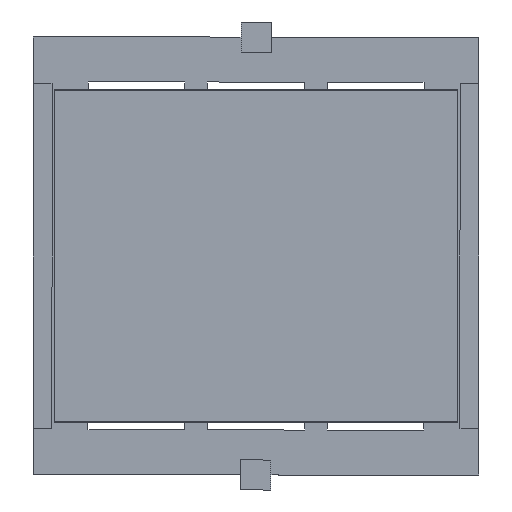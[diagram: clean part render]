
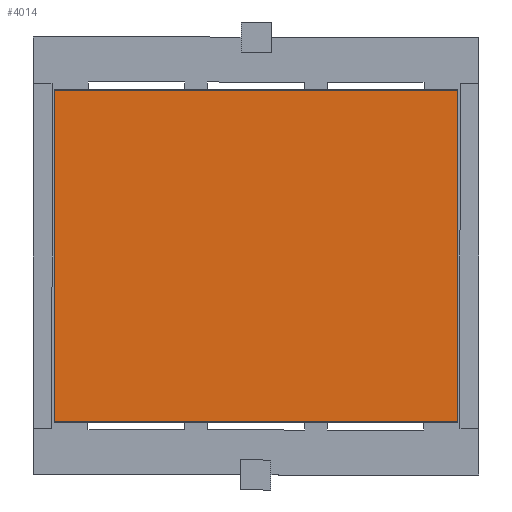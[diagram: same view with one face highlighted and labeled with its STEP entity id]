
A CAD part, front view. The second image highlights one B-rep face of the part: STEP entity #4014.
In plain terms, the highlighted planar face has unit normal (0, -1, 0).
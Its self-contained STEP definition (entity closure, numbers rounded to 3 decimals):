
#145 = CARTESIAN_POINT ( 'NONE',  ( -23.628, -8.053, 21.798 ) ) ;
#459 = CARTESIAN_POINT ( 'NONE',  ( -23.628, -8.053, 21.798 ) ) ;
#653 = EDGE_CURVE ( 'NONE', #707, #3881, #1815, .T. ) ;
#707 = VERTEX_POINT ( 'NONE', #145 ) ;
#982 = VERTEX_POINT ( 'NONE', #4372 ) ;
#1199 = VECTOR ( 'NONE', #2159, 1000. ) ;
#1309 = VECTOR ( 'NONE', #5328, 1000. ) ;
#1610 = EDGE_LOOP ( 'NONE', ( #5399, #2987, #2485, #4608 ) ) ;
#1736 = DIRECTION ( 'NONE',  ( -1., 0., 0. ) ) ;
#1815 = LINE ( 'NONE', #459, #1309 ) ;
#2159 = DIRECTION ( 'NONE',  ( 0., 0., -1. ) ) ;
#2190 = CARTESIAN_POINT ( 'NONE',  ( -23.628, -8.053, -0.3 ) ) ;
#2279 = EDGE_CURVE ( 'NONE', #4986, #707, #2585, .T. ) ;
#2281 = EDGE_CURVE ( 'NONE', #982, #4986, #3079, .T. ) ;
#2485 = ORIENTED_EDGE ( 'NONE', *, *, #4271, .F. ) ;
#2585 = LINE ( 'NONE', #2634, #3180 ) ;
#2634 = CARTESIAN_POINT ( 'NONE',  ( -23.628, -8.053, -0.3 ) ) ;
#2717 = LINE ( 'NONE', #4483, #1199 ) ;
#2785 = CARTESIAN_POINT ( 'NONE',  ( -23.628, -8.053, 21.798 ) ) ;
#2838 = DIRECTION ( 'NONE',  ( 0., 1., 0. ) ) ;
#2987 = ORIENTED_EDGE ( 'NONE', *, *, #2281, .F. ) ;
#3079 = LINE ( 'NONE', #2190, #4899 ) ;
#3180 = VECTOR ( 'NONE', #4409, 1000. ) ;
#3283 = CARTESIAN_POINT ( 'NONE',  ( 3.296, -8.053, 21.798 ) ) ;
#3491 = AXIS2_PLACEMENT_3D ( 'NONE', #2785, #2838, #5357 ) ;
#3881 = VERTEX_POINT ( 'NONE', #3283 ) ;
#4014 = ADVANCED_FACE ( 'NONE', ( #5233 ), #4810, .F. ) ;
#4271 = EDGE_CURVE ( 'NONE', #3881, #982, #2717, .T. ) ;
#4372 = CARTESIAN_POINT ( 'NONE',  ( 3.296, -8.053, -0.3 ) ) ;
#4409 = DIRECTION ( 'NONE',  ( 0., 0., 1. ) ) ;
#4483 = CARTESIAN_POINT ( 'NONE',  ( 3.296, -8.053, -0.3 ) ) ;
#4608 = ORIENTED_EDGE ( 'NONE', *, *, #653, .F. ) ;
#4810 = PLANE ( 'NONE',  #3491 ) ;
#4899 = VECTOR ( 'NONE', #1736, 1000. ) ;
#4986 = VERTEX_POINT ( 'NONE', #5045 ) ;
#5045 = CARTESIAN_POINT ( 'NONE',  ( -23.628, -8.053, -0.3 ) ) ;
#5233 = FACE_OUTER_BOUND ( 'NONE', #1610, .T. ) ;
#5328 = DIRECTION ( 'NONE',  ( 1., 0., 0. ) ) ;
#5357 = DIRECTION ( 'NONE',  ( 0., 0., 1. ) ) ;
#5399 = ORIENTED_EDGE ( 'NONE', *, *, #2279, .F. ) ;
